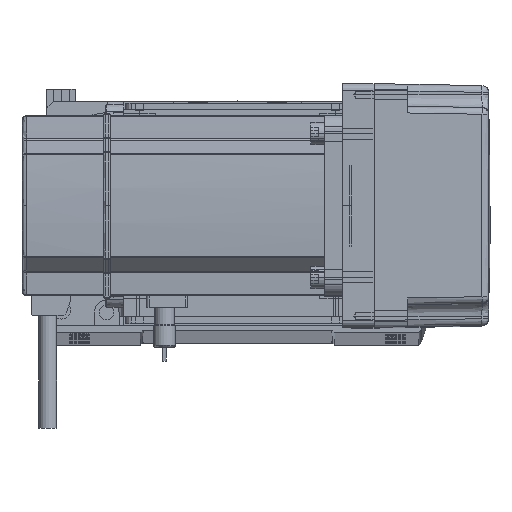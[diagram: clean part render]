
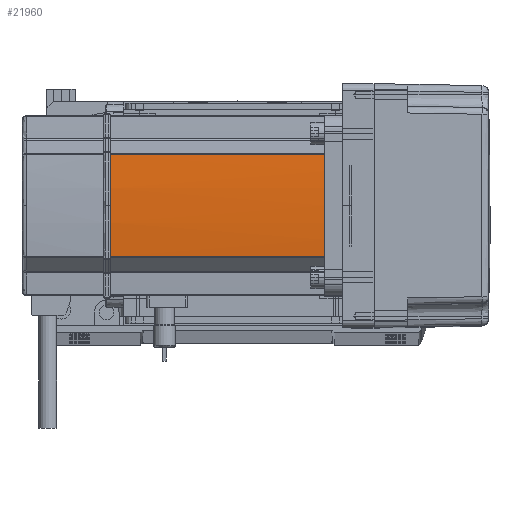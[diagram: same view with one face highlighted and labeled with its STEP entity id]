
A CAD part, top view. The second image highlights one B-rep face of the part: STEP entity #21960.
In plain terms, the highlighted cylindrical face has radius 270 mm (diameter 540 mm), a partial arc.
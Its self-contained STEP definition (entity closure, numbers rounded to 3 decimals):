
#3157 = DIRECTION ( 'NONE',  ( 0., 0., -1. ) ) ;
#3434 = CARTESIAN_POINT ( 'NONE',  ( 230., 0., 0. ) ) ;
#5734 = ORIENTED_EDGE ( 'NONE', *, *, #9242, .T. ) ;
#6302 = DIRECTION ( 'NONE',  ( 0., 0., -1. ) ) ;
#6303 = LINE ( 'NONE', #36071, #38525 ) ;
#6527 = DIRECTION ( 'NONE',  ( 1., 0., 0. ) ) ;
#6747 = DIRECTION ( 'NONE',  ( 1., 0., 0. ) ) ;
#8690 = ORIENTED_EDGE ( 'NONE', *, *, #46604, .F. ) ;
#9242 = EDGE_CURVE ( 'NONE', #23887, #10574, #50384, .T. ) ;
#10426 = AXIS2_PLACEMENT_3D ( 'NONE', #41557, #11162, #47185 ) ;
#10574 = VERTEX_POINT ( 'NONE', #55716 ) ;
#11162 = DIRECTION ( 'NONE',  ( 0., 0., -1. ) ) ;
#15152 = CARTESIAN_POINT ( 'NONE',  ( -39.042, -22.724, 39. ) ) ;
#18679 = DIRECTION ( 'NONE',  ( 0., 0., 1. ) ) ;
#18887 = DIRECTION ( 'NONE',  ( 1., 0., 0. ) ) ;
#20491 = VECTOR ( 'NONE', #3157, 1000. ) ;
#21960 = ADVANCED_FACE ( 'NONE', ( #23241 ), #33739, .T. ) ;
#23241 = FACE_OUTER_BOUND ( 'NONE', #43354, .T. ) ;
#23863 = AXIS2_PLACEMENT_3D ( 'NONE', #37584, #6302, #6747 ) ;
#23887 = VERTEX_POINT ( 'NONE', #44864 ) ;
#26004 = AXIS2_PLACEMENT_3D ( 'NONE', #3434, #18679, #18887 ) ;
#27743 = ORIENTED_EDGE ( 'NONE', *, *, #44569, .T. ) ;
#28782 = CARTESIAN_POINT ( 'NONE',  ( -39.042, 22.724, 0. ) ) ;
#29280 = VERTEX_POINT ( 'NONE', #33164 ) ;
#30216 = EDGE_CURVE ( 'NONE', #57054, #23887, #30477, .T. ) ;
#30477 = CIRCLE ( 'NONE', #10426, 270. ) ;
#33164 = CARTESIAN_POINT ( 'NONE',  ( -39.042, 22.724, 39. ) ) ;
#33739 = CYLINDRICAL_SURFACE ( 'NONE', #26004, 270. ) ;
#35933 = ORIENTED_EDGE ( 'NONE', *, *, #30216, .T. ) ;
#36071 = CARTESIAN_POINT ( 'NONE',  ( -39.042, -22.724, 0. ) ) ;
#37584 = CARTESIAN_POINT ( 'NONE',  ( 230., 0., 39. ) ) ;
#38525 = VECTOR ( 'NONE', #46406, 1000. ) ;
#41164 = VERTEX_POINT ( 'NONE', #15152 ) ;
#41557 = CARTESIAN_POINT ( 'NONE',  ( 230., 0., 134. ) ) ;
#43354 = EDGE_LOOP ( 'NONE', ( #35933, #5734, #62525, #8690, #27743 ) ) ;
#44001 = CARTESIAN_POINT ( 'NONE',  ( -39.042, -22.724, 134. ) ) ;
#44569 = EDGE_CURVE ( 'NONE', #41164, #57054, #6303, .T. ) ;
#44864 = CARTESIAN_POINT ( 'NONE',  ( -40., 0., 134. ) ) ;
#46406 = DIRECTION ( 'NONE',  ( 0., 0., 1. ) ) ;
#46604 = EDGE_CURVE ( 'NONE', #41164, #29280, #57527, .T. ) ;
#47185 = DIRECTION ( 'NONE',  ( 1., 0., 0. ) ) ;
#50358 = AXIS2_PLACEMENT_3D ( 'NONE', #57565, #58435, #6527 ) ;
#50384 = CIRCLE ( 'NONE', #50358, 270. ) ;
#55716 = CARTESIAN_POINT ( 'NONE',  ( -39.042, 22.724, 134. ) ) ;
#56737 = LINE ( 'NONE', #28782, #20491 ) ;
#57054 = VERTEX_POINT ( 'NONE', #44001 ) ;
#57527 = CIRCLE ( 'NONE', #23863, 270. ) ;
#57565 = CARTESIAN_POINT ( 'NONE',  ( 230., 0., 134. ) ) ;
#58435 = DIRECTION ( 'NONE',  ( 0., 0., -1. ) ) ;
#62525 = ORIENTED_EDGE ( 'NONE', *, *, #64364, .T. ) ;
#64364 = EDGE_CURVE ( 'NONE', #10574, #29280, #56737, .T. ) ;
